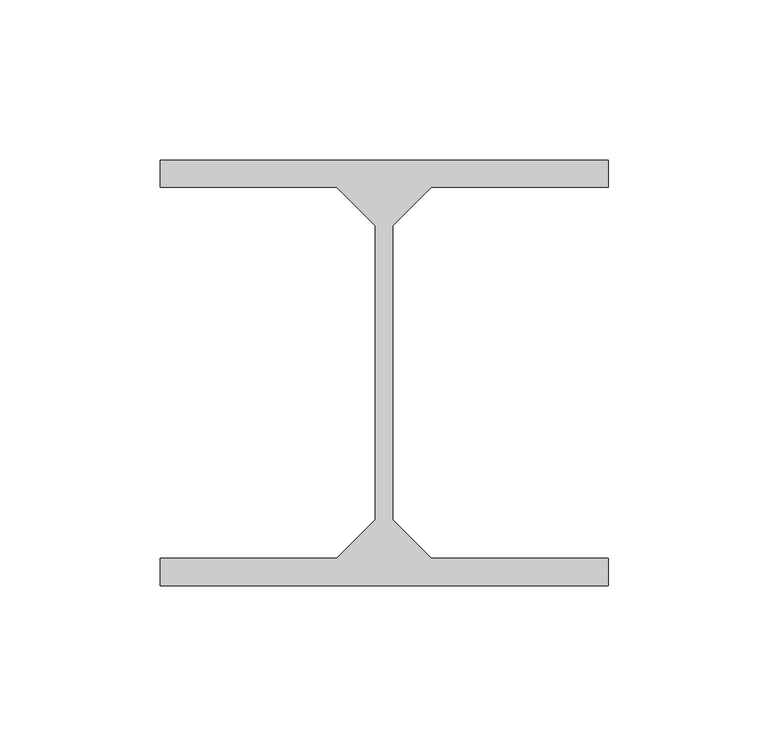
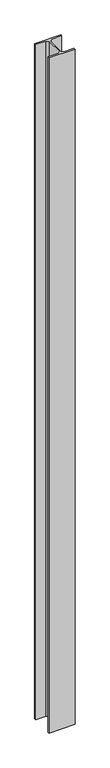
"""IFC4 building model written with IfcOpenShell, lengths in millimetres: beam geometry, Potelet 49532 : Potelet 49532."""

from ifc_helpers import new_model, si_unit, frame, origin, place, context, project, spatial, polyline, outline, extrude, source, transform, mapped, element, save


def beam_35b06b7e(model_context):
    return source(origin(), model_context, "Body", "SweptSolid", [
        extrude(outline(polyline([(11427.4999999, -23528.0), (11427.4999999, -23519.5), (11567.4999999, -23519.5), (11567.4999999, -23528.0), (11512.2499999, -23528.0), (11500.2499999, -23540.0), (11500.2499999, -23632.0), (11512.2499999, -23644.0), (11567.4999999, -23644.0), (11567.4999999, -23652.5), (11427.4999999, -23652.5), (11427.4999999, -23644.0), (11482.7499999, -23644.0), (11494.7499999, -23632.0), (11494.7499999, -23540.0), (11482.7499999, -23528.0), (11427.4999999, -23528.0)])), frame((0.0, 0.0, 7410.0), z_axis=(0.0, 0.0, 1.0), x_axis=(1.0, 0.0, 0.0)), (0.0, 0.0, 1.0), 3825.9485543),
    ])


if __name__ == "__main__":
    model = new_model("IFC4")
    model_context = context("Model", 3, world=origin())
    ifc_project = project(units=[si_unit("LENGTHUNIT", "METRE", prefix="MILLI")], contexts=[model_context])
    site = spatial("IfcSite", under=ifc_project)
    building = spatial("IfcBuilding", under=site)
    placement = place(None, origin())
    beam_shape = beam_35b06b7e(model_context)
    element("IfcBeam", 1, ObjectType="Potelet 49532 : Potelet 49532", at=placement, inside=building, context=model_context, shape_type="MappedRepresentation", body=[
        mapped(beam_shape, transform((0.0, 0.0, 0.0), x_axis=(1.0, 0.0, 0.0), y_axis=(0.0, 1.0, 0.0), z_axis=(0.0, 0.0, 1.0))),
    ])
    save(model, "model.ifc")
